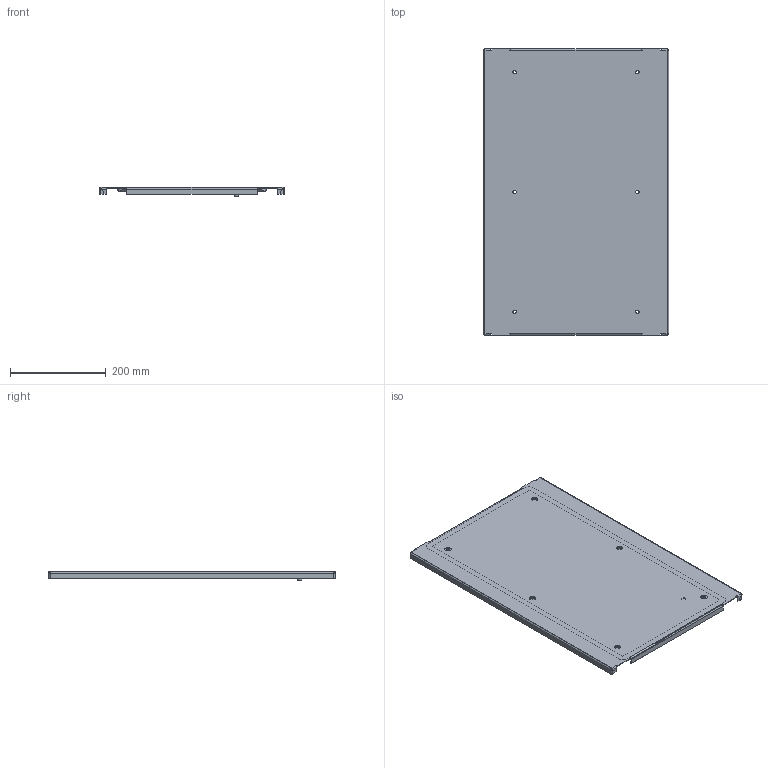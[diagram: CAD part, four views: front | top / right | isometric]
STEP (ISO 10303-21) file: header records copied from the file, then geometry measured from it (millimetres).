
FILE_DESCRIPTION(('STEP AP203'), '1');
FILE_NAME('Ïàíåëü ëèöåâàÿ ãëóõàÿ 600õ400 ìì OptiBox M 419504 ÊÝÀÇ', '', ('UNSPECIFIED'), ('UNSPECIFIED'), 'C3D Converter', 'C3D Toolkit', '');
FILE_SCHEMA(('CONFIG_CONTROL_DESIGN'));
Length unit declared in the file: millimetre
Bounding box: 386.4 x 597 x 18.9 mm (x, y, z)
Volume: 475082.5 mm3; surface area: 563873.4 mm2
Topology: 3 solids, 3 shells, 174 faces, 397 edges, 238 vertices
Faces by surface type: plane 111, cylinder 55, bspline 8
Full cylindrical faces by diameter (mm): 0.75 x1, 1 x1, 5 x2, 7.3 x6, 8 x1, 9.3 x1, 13 x1, 13.5 x6
Entity records: 5888 total; most frequent: CARTESIAN_POINT 2027, ORIENTED_EDGE 756, DIRECTION 754, EDGE_CURVE 378, LINE 264, VECTOR 264, AXIS2_PLACEMENT_3D 245, VERTEX_POINT 238
